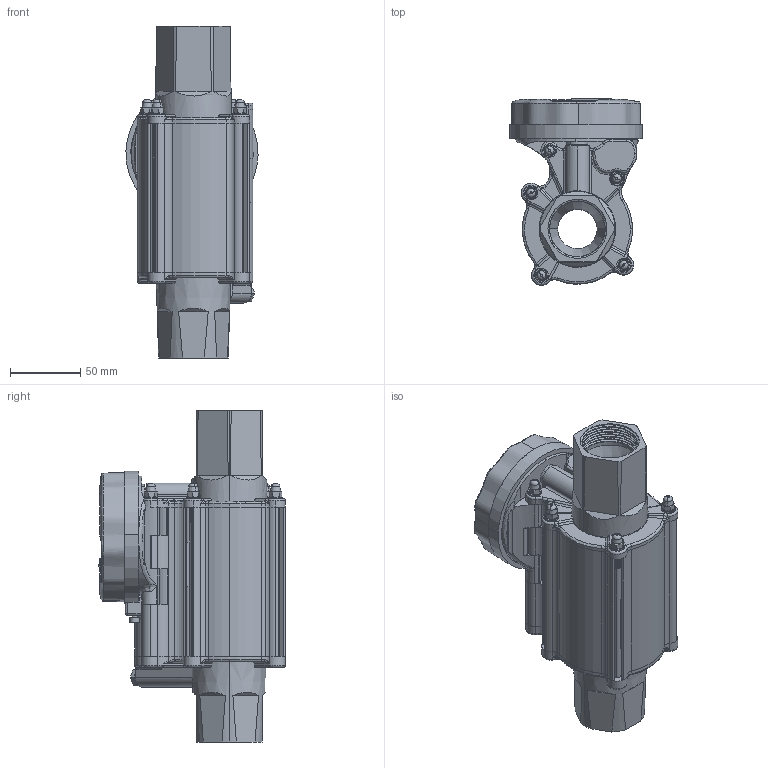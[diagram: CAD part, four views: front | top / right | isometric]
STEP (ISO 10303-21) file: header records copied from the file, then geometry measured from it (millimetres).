
FILE_DESCRIPTION (( 'STEP AP214' ), '1' );
FILE_NAME ('PAP-L032-FFG.STEP', '2020-02-04T15:44:59', ( 'Windows User' ), ( 'Watts Water' ), 'SwSTEP 2.0', 'SolidWorks 2017', '' );
FILE_SCHEMA (( 'AUTOMOTIVE_DESIGN' ));
Length unit declared in the file: millimetre
Products named in the file (1): PAP-L032-FFG
Bounding box: 93.93 x 132.7 x 236 mm (x, y, z)
Surface area: 142960.3 mm2 (no closed solid volume)
Topology: 0 solids, 67 shells, 1235 faces, 4065 edges, 2776 vertices
Faces by surface type: cylinder 402, plane 347, cone 213, bspline 132, torus 119, sphere 22
Entity records: 78527 total; most frequent: CARTESIAN_POINT 30999, DIRECTION 7061, ORIENTED_EDGE 6792, EDGE_CURVE 4023, VERTEX_POINT 2774, AXIS2_PLACEMENT_3D 2762, CIRCLE 1658, VECTOR 1537
